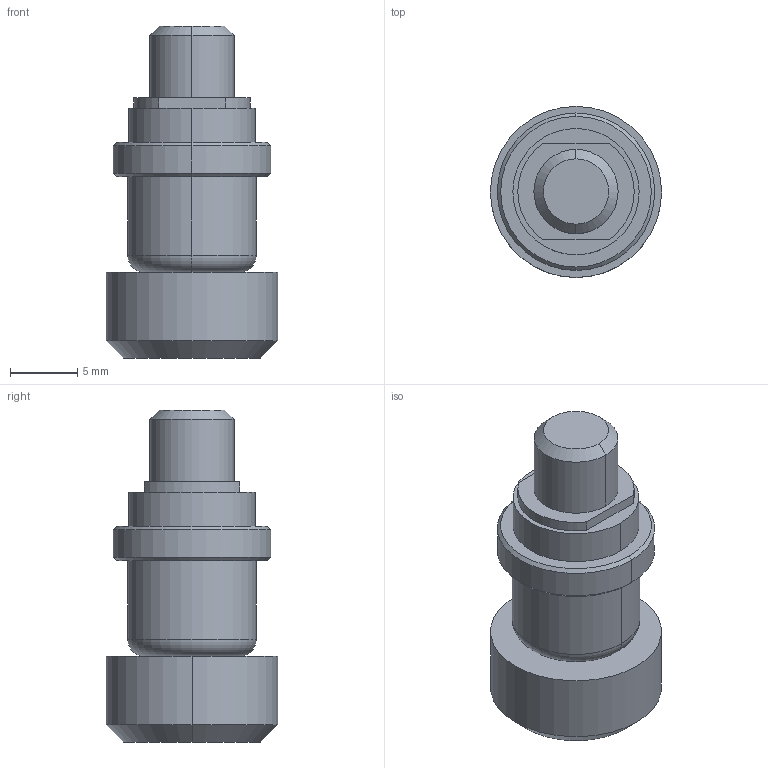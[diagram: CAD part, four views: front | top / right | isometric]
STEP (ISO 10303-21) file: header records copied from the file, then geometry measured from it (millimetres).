
FILE_DESCRIPTION(/* description */ ('VariCAD 2010-1.04 AP-203'),/* implementation_level */ '2;1');
FILE_NAME(/* name */ '0353-83-10',/* time_stamp */ '2010-01-26T20:30:34-07:00',/* author */ (''),/* organization */ (''),/* preprocessor_version */ 'ST-DEVELOPER v12',/* originating_system */ 'VariCAD 2010-1.04; kernel version (20090520)',/* authorisation */ '');
FILE_SCHEMA (('CONFIG_CONTROL_DESIGN'));
Length unit declared in the file: millimetre
Products named in the file (1): Part
Bounding box: 12.7 x 12.7 x 24.64 mm (x, y, z)
Volume: 1916.5 mm3; surface area: 1081.7 mm2
Topology: 1 solids, 1 shells, 31 faces, 62 edges, 38 vertices
Faces by surface type: cylinder 12, plane 9, cone 8, torus 2
Entity records: 858 total; most frequent: DIRECTION 164, CARTESIAN_POINT 133, ORIENTED_EDGE 124, AXIS2_PLACEMENT_3D 69, EDGE_CURVE 62, VERTEX_POINT 38, EDGE_LOOP 36, CIRCLE 36
